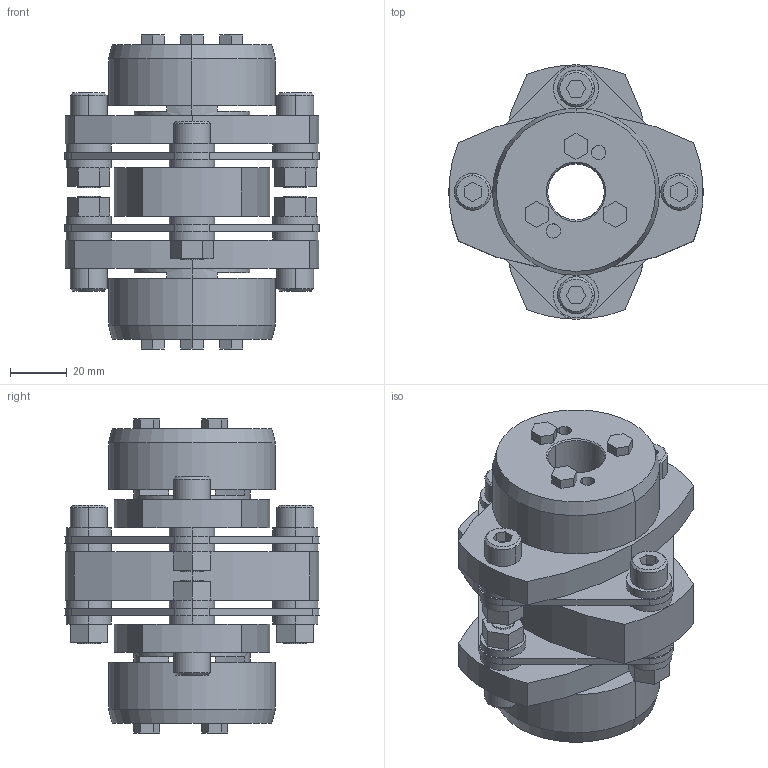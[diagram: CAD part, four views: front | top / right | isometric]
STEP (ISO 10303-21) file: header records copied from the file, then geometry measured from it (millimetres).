
FILE_DESCRIPTION((''),'2;1');
FILE_NAME('LCD-90T7-20×20.stp','2011-09-09T10:32:50',(''),(''),'AutoCAD STEP 2000i','AutoCAD 2000i',', , ');
FILE_SCHEMA(('CONFIG_CONTROL_DESIGN'));
Length unit declared in the file: millimetre
Products named in the file (5): LCD-90T7-19×19; 忣兜1; LC90T7-T019-1; LC90T7-T019; LCD90-ITA
Assembly tree (4 placements, depth 2):
  LCD-90T7-19×19
    忣兜1
    LC90T7-T019-1
    LC90T7-T019
    LCD90-ITA
Bounding box: 90 x 89.94 x 111 mm (x, y, z)
Volume: 276880.8 mm3; surface area: 73923.9 mm2
Topology: 1 solids, 1 shells, 320 faces, 780 edges, 512 vertices
Faces by surface type: plane 176, cylinder 120, cone 24
Entity records: 9635 total; most frequent: DIRECTION 1710, CARTESIAN_POINT 1617, ORIENTED_EDGE 1560, EDGE_CURVE 780, AXIS2_PLACEMENT_3D 605, VERTEX_POINT 512, VECTOR 500, LINE 500
